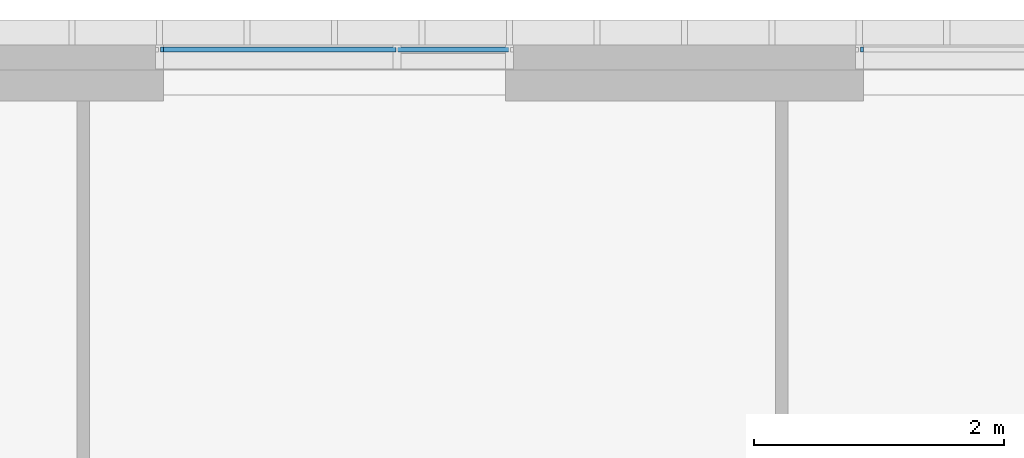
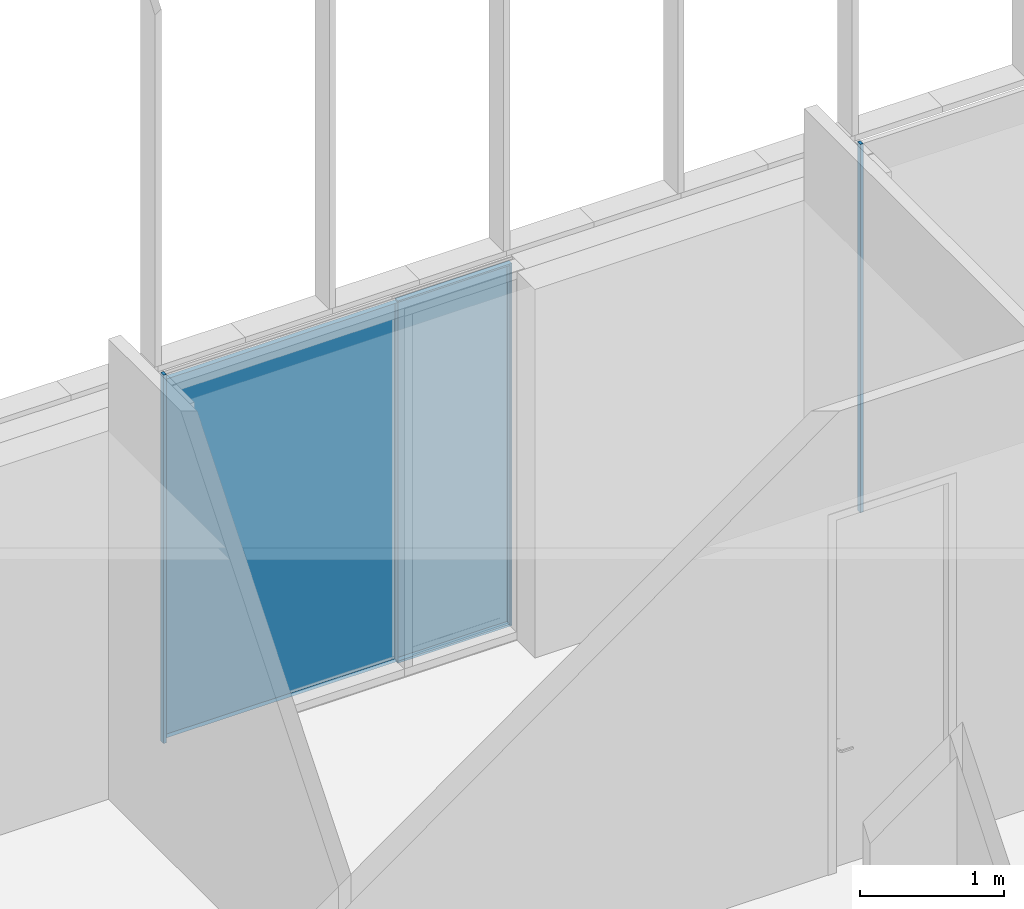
# One storey, part 71 of 240: 3 plates, 2 elements without a shape of their own.
"""IFC2X3 building model written with IfcOpenShell, lengths in centimetres."""

from ifc_helpers import new_model, entity, si_unit, converted_unit, derived_unit, direction, frame, origin, origin_2d_with_axis, place, context, subcontext, project, spatial, rectangle, extrude, faceted_brep, source, transform, mapped, material, layer, layer_set, layer_usage, type_object, type_shapes, element, aggregate, save


model = new_model("IFC2X3")

# Units and contexts
model_context = context("Model", 3, precision=0.001, world=origin(), true_north=direction((6.12303176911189e-17, 1.0)))
body_context = subcontext(model_context, "Body", "Model", "MODEL_VIEW")
ifc_project = project(units=[si_unit("LENGTHUNIT", "METRE", prefix="CENTI"), si_unit("AREAUNIT", "SQUARE_METRE"), si_unit("VOLUMEUNIT", "CUBIC_METRE"), converted_unit("PLANEANGLEUNIT", "DEGREE", entity("IfcRatioMeasure", 0.0174532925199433), si_unit("PLANEANGLEUNIT", "RADIAN"), dimensions=[0, 0, 0, 0, 0, 0, 0]), si_unit("MASSUNIT", "GRAM", prefix="KILO"), derived_unit("MASSDENSITYUNIT", [(si_unit("MASSUNIT", "GRAM", prefix="KILO"), 1), (si_unit("LENGTHUNIT", "METRE"), -3)]), si_unit("TIMEUNIT", "SECOND"), si_unit("FREQUENCYUNIT", "HERTZ"), si_unit("THERMODYNAMICTEMPERATUREUNIT", "DEGREE_CELSIUS"), derived_unit("THERMALTRANSMITTANCEUNIT", [(si_unit("MASSUNIT", "GRAM", prefix="KILO"), 1), (si_unit("THERMODYNAMICTEMPERATUREUNIT", "KELVIN"), -1), (si_unit("TIMEUNIT", "SECOND"), -3)]), derived_unit("VOLUMETRICFLOWRATEUNIT", [(si_unit("LENGTHUNIT", "METRE"), 3), (si_unit("TIMEUNIT", "SECOND"), -1)]), si_unit("ELECTRICCURRENTUNIT", "AMPERE"), si_unit("ELECTRICVOLTAGEUNIT", "VOLT"), si_unit("POWERUNIT", "WATT"), si_unit("FORCEUNIT", "NEWTON", prefix="KILO"), si_unit("ILLUMINANCEUNIT", "LUX"), si_unit("LUMINOUSFLUXUNIT", "LUMEN"), si_unit("LUMINOUSINTENSITYUNIT", "CANDELA"), derived_unit("USERDEFINED", [(si_unit("MASSUNIT", "GRAM", prefix="KILO"), -1), (si_unit("LENGTHUNIT", "METRE"), -2), (si_unit("TIMEUNIT", "SECOND"), 3), (si_unit("LUMINOUSFLUXUNIT", "LUMEN"), 1)]), derived_unit("LINEARVELOCITYUNIT", [(si_unit("LENGTHUNIT", "METRE"), 1), (si_unit("TIMEUNIT", "SECOND"), -1)]), si_unit("PRESSUREUNIT", "PASCAL"), derived_unit("USERDEFINED", [(si_unit("LENGTHUNIT", "METRE"), -2), (si_unit("MASSUNIT", "GRAM", prefix="KILO"), 1), (si_unit("TIMEUNIT", "SECOND"), -2)])], contexts=[model_context])

# Site, building, storey
site_placement = place(None, frame((-2781.94577612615, 7442.24238424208, 0.0)))
site = spatial("IfcSite", under=ifc_project, at=site_placement, Name="Default", CompositionType="ELEMENT")
building_placement = place(site_placement, origin())
building = spatial("IfcBuilding", under=site, at=building_placement, CompositionType="ELEMENT")
storey_placement = place(building_placement, origin())
storey = spatial("IfcBuildingStorey", under=building, at=storey_placement, Name="N00 - COO", CompositionType="ELEMENT", Elevation=0.0)

# Curtain wall, plate
curtain_wall_type = type_object("IfcCurtainWallType", Name="Mur-rideau:07 - mur rideau trame 280 cm", PredefinedType="NOTDEFINED")
curtain_wall_1_placement = place(building_placement, origin())
curtain_wall_1 = element("IfcCurtainWall", 1, at=curtain_wall_1_placement, inside=storey, type_object=curtain_wall_type, Name="Mur-rideau:07 - mur rideau trame 280 cm", ObjectType="Mur-rideau:07 - mur rideau trame 280 cm")
ifc_material = material(Name="Verre")
ifc_layer = layer(ifc_material, 4.0)
ifc_layer_set = layer_set([ifc_layer], Name="Panneau système:Vitré")
ifc_layer_usage_1 = layer_usage(ifc_layer_set, "AXIS3", "POSITIVE", 0.0)
plate_type_1 = type_object("IfcPlateType", Name="Vitré", PredefinedType="CURTAIN_PANEL", material=ifc_layer_set)
shared_shape_1 = source(origin(), body_context, "Body", "SweptSolid", [
    extrude(rectangle(XDim=4.0, YDim=2.38124996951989, at=origin_2d_with_axis()), frame((0.0, 0.0, 0.0), z_axis=(0.0, 0.0, 1.0), x_axis=(0.0, 1.0, 0.0)), (0.0, 0.0, 1.0), 313.0),
])
type_shapes(plate_type_1, [shared_shape_1])
plate_1_placement = place(curtain_wall_1_placement, frame((-5607.44050261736, 26.2000000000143, 0.0), z_axis=(0.0, 0.0, 1.0), x_axis=(-1.0, 0.0, 0.0)))
plate_1 = element("IfcPlate", 2, at=plate_1_placement, type_object=plate_type_1, material=ifc_layer_usage_1, Name="Panneau système:Vitré", ObjectType="Panneau système:Vitré", context=body_context, shape_type="MappedRepresentation", body=[
    mapped(shared_shape_1, transform((0.0, 0.0, 0.0), scale=1.0)),
])
aggregate(curtain_wall_1, [plate_1])

# Curtain wall, plates
curtain_wall_2_placement = place(building_placement, origin())
curtain_wall_2 = element("IfcCurtainWall", 3, at=curtain_wall_2_placement, inside=storey, type_object=curtain_wall_type, Name="Mur-rideau:07 - mur rideau trame 280 cm", ObjectType="Mur-rideau:07 - mur rideau trame 280 cm")
ifc_layer_usage_2 = layer_usage(ifc_layer_set, "AXIS3", "POSITIVE", 0.0)
plate_2_placement = place(curtain_wall_2_placement, frame((-6167.44050261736, 26.2000000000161, 0.0), z_axis=(0.0, 0.0, 1.0), x_axis=(-1.0, 0.0, 0.0)))
plate_2 = element("IfcPlate", 4, at=plate_2_placement, type_object=plate_type_1, material=ifc_layer_usage_2, Name="Panneau système:Vitré", ObjectType="Panneau système:Vitré", context=body_context, shape_type="MappedRepresentation", body=[
    mapped(shared_shape_1, transform((0.0, 0.0, 0.0), scale=1.0)),
])
plate_type_2 = type_object("IfcPlateType", Name="Vitré", PredefinedType="CURTAIN_PANEL", material=ifc_layer_set)
shared_shape_2 = source(origin(), body_context, "Body", "Brep", [
    faceted_brep([(-137.07187501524, -2.0, 1.73749999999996), (138.809375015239, -2.0, 1.73749999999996), (138.809375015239, -2.0, 306.5), (-137.07187501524, -2.0, 306.5), (-137.07187501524, 2.0, 1.73749999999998), (-137.07187501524, 2.0, 306.5), (138.809375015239, 2.0, 306.5), (138.809375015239, 2.0, 1.73749999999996), (-47.0718750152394, 2.0, 0.0), (-47.0718750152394, 2.0, 307.7375), (-138.80937501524, 2.0, 307.7375), (-138.80937501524, 2.0, 0.0), (-138.80937501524, -2.0, 0.0), (-47.0718750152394, -2.0, 0.0), (-138.80937501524, -2.0, 307.7375), (-47.0718750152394, -2.0, 307.7375)], [[[0, 1, 2, 3]], [[4, 5, 6, 7], [8, 9, 10, 11]], [[1, 0, 4, 7]], [[2, 1, 7, 6]], [[3, 2, 6, 5]], [[0, 3, 5, 4]], [[12, 13, 8, 11]], [[14, 12, 11, 10]], [[15, 14, 10, 9]], [[13, 15, 9, 8]], [[13, 12, 14, 15]]]),
])
type_shapes(plate_type_2, [shared_shape_2])
plate_3_placement = place(curtain_wall_2_placement, frame((-6027.44050261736, 26.2000000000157, 2.38125000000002), z_axis=(0.0, 0.0, 1.0), x_axis=(-1.0, 0.0, 0.0)))
plate_3 = element("IfcPlate", 5, at=plate_3_placement, type_object=plate_type_2, material=ifc_material, Name="Panneau système:Vitré", ObjectType="Panneau système:Vitré", context=body_context, shape_type="MappedRepresentation", body=[
    mapped(shared_shape_2, transform((0.0, 0.0, 0.0), scale=1.0)),
])
aggregate(curtain_wall_2, [plate_3, plate_2])

save(model, "model.ifc")
